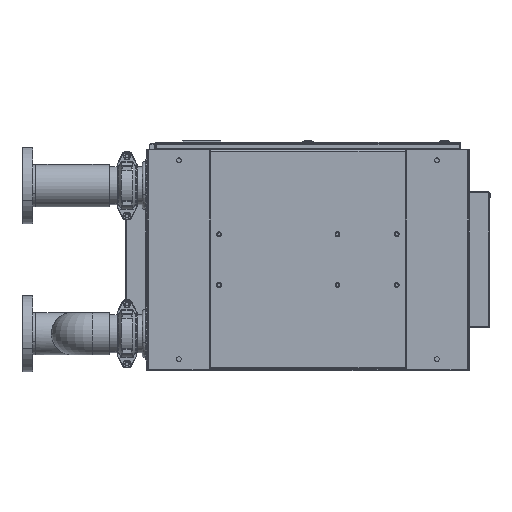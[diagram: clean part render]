
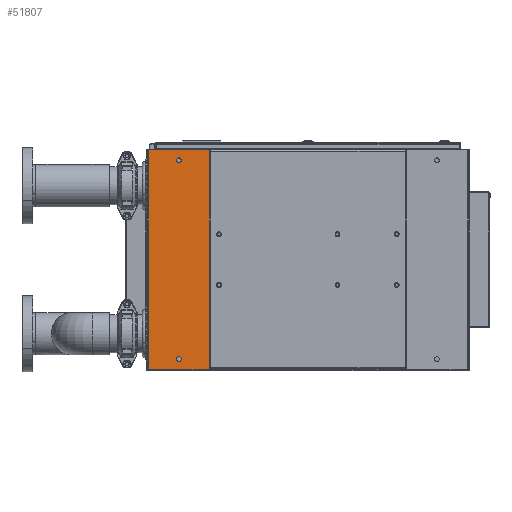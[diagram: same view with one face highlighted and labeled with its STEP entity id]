
A CAD part, front view. The second image highlights one B-rep face of the part: STEP entity #51807.
In plain terms, the highlighted planar face has unit normal (0, -1, 0).
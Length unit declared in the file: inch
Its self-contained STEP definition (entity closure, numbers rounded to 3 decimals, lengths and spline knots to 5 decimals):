
#680 = EDGE_CURVE ( 'NONE', #25294, #70871, #28948, .T. ) ;
#1406 = DIRECTION ( 'NONE',  ( 0., 0., 1. ) ) ;
#6369 = AXIS2_PLACEMENT_3D ( 'NONE', #56355, #14743, #63305 ) ;
#7890 = CIRCLE ( 'NONE', #30399, 0.27345 ) ;
#9119 = CARTESIAN_POINT ( 'NONE',  ( -5.97917, -24.80668, 12.40618 ) ) ;
#9890 = DIRECTION ( 'NONE',  ( -1., 0., 0. ) ) ;
#13003 = DIRECTION ( 'NONE',  ( 1., 0., 0. ) ) ;
#13059 = DIRECTION ( 'NONE',  ( 0., 1., 0. ) ) ;
#14743 = DIRECTION ( 'NONE',  ( 0., 1., 0. ) ) ;
#15201 = LINE ( 'NONE', #81739, #31545 ) ;
#17335 = EDGE_CURVE ( 'NONE', #77546, #32328, #15201, .T. ) ;
#19279 = DIRECTION ( 'NONE',  ( 0., 0., -1. ) ) ;
#19924 = VECTOR ( 'NONE', #13003, 39.37008 ) ;
#20611 = ORIENTED_EDGE ( 'NONE', *, *, #32280, .F. ) ;
#25294 = VERTEX_POINT ( 'NONE', #85284 ) ;
#25393 = ORIENTED_EDGE ( 'NONE', *, *, #82500, .T. ) ;
#27430 = VERTEX_POINT ( 'NONE', #79432 ) ;
#28948 = LINE ( 'NONE', #68748, #82011 ) ;
#29856 = FACE_OUTER_BOUND ( 'NONE', #45528, .T. ) ;
#30362 = CIRCLE ( 'NONE', #6369, 0.27345 ) ;
#30399 = AXIS2_PLACEMENT_3D ( 'NONE', #54714, #13059, #61629 ) ;
#31231 = EDGE_LOOP ( 'NONE', ( #77653, #41211 ) ) ;
#31545 = VECTOR ( 'NONE', #19279, 39.37008 ) ;
#32280 = EDGE_CURVE ( 'NONE', #25294, #32328, #64486, .T. ) ;
#32328 = VERTEX_POINT ( 'NONE', #38148 ) ;
#34219 = DIRECTION ( 'NONE',  ( 0., 0., 1. ) ) ;
#34380 = DIRECTION ( 'NONE',  ( 0., 1., 0. ) ) ;
#37094 = CARTESIAN_POINT ( 'NONE',  ( -9.56167, -24.80668, 11.15618 ) ) ;
#38148 = CARTESIAN_POINT ( 'NONE',  ( -13.14417, -24.80668, -13.59382 ) ) ;
#40635 = AXIS2_PLACEMENT_3D ( 'NONE', #37094, #85503, #44061 ) ;
#41197 = ORIENTED_EDGE ( 'NONE', *, *, #17335, .T. ) ;
#41211 = ORIENTED_EDGE ( 'NONE', *, *, #83684, .T. ) ;
#41269 = CARTESIAN_POINT ( 'NONE',  ( -13.14417, -24.80668, 12.40618 ) ) ;
#43051 = DIRECTION ( 'NONE',  ( 0., 1., 0. ) ) ;
#43345 = CARTESIAN_POINT ( 'NONE',  ( -9.56167, -24.80668, -12.07037 ) ) ;
#43466 = AXIS2_PLACEMENT_3D ( 'NONE', #84498, #43051, #1406 ) ;
#44061 = DIRECTION ( 'NONE',  ( 0., 0., 1. ) ) ;
#45528 = EDGE_LOOP ( 'NONE', ( #50150, #82816, #41197, #20611 ) ) ;
#46431 = AXIS2_PLACEMENT_3D ( 'NONE', #75859, #34380, #82811 ) ;
#46532 = ORIENTED_EDGE ( 'NONE', *, *, #74832, .T. ) ;
#47675 = CARTESIAN_POINT ( 'NONE',  ( -13.31167, -24.80668, 12.40618 ) ) ;
#48039 = PLANE ( 'NONE',  #46431 ) ;
#48194 = VERTEX_POINT ( 'NONE', #48871 ) ;
#48309 = FACE_BOUND ( 'NONE', #31231, .T. ) ;
#48871 = CARTESIAN_POINT ( 'NONE',  ( -9.56167, -24.80668, 11.42963 ) ) ;
#50150 = ORIENTED_EDGE ( 'NONE', *, *, #680, .T. ) ;
#51807 = ADVANCED_FACE ( 'NONE', ( #48309, #64555, #29856 ), #48039, .F. ) ;
#53803 = EDGE_CURVE ( 'NONE', #77546, #70871, #75282, .T. ) ;
#54714 = CARTESIAN_POINT ( 'NONE',  ( -9.56167, -24.80668, 11.15618 ) ) ;
#56355 = CARTESIAN_POINT ( 'NONE',  ( -9.56167, -24.80668, -12.34382 ) ) ;
#61629 = DIRECTION ( 'NONE',  ( 0., 0., 1. ) ) ;
#63305 = DIRECTION ( 'NONE',  ( 0., 0., 1. ) ) ;
#64486 = LINE ( 'NONE', #72098, #78510 ) ;
#64555 = FACE_BOUND ( 'NONE', #85411, .T. ) ;
#68244 = VERTEX_POINT ( 'NONE', #68505 ) ;
#68505 = CARTESIAN_POINT ( 'NONE',  ( -9.56167, -24.80668, 10.88273 ) ) ;
#68748 = CARTESIAN_POINT ( 'NONE',  ( -5.97917, -24.80668, -13.59382 ) ) ;
#69032 = EDGE_CURVE ( 'NONE', #48194, #68244, #7890, .T. ) ;
#69711 = VERTEX_POINT ( 'NONE', #43345 ) ;
#70871 = VERTEX_POINT ( 'NONE', #9119 ) ;
#72098 = CARTESIAN_POINT ( 'NONE',  ( -13.31167, -24.80668, -13.59382 ) ) ;
#74832 = EDGE_CURVE ( 'NONE', #27430, #69711, #30362, .T. ) ;
#75282 = LINE ( 'NONE', #47675, #19924 ) ;
#75859 = CARTESIAN_POINT ( 'NONE',  ( -9.56167, -24.80668, -0.59382 ) ) ;
#77546 = VERTEX_POINT ( 'NONE', #41269 ) ;
#77653 = ORIENTED_EDGE ( 'NONE', *, *, #69032, .T. ) ;
#78510 = VECTOR ( 'NONE', #9890, 39.37008 ) ;
#79432 = CARTESIAN_POINT ( 'NONE',  ( -9.56167, -24.80668, -12.61727 ) ) ;
#79710 = CIRCLE ( 'NONE', #43466, 0.27345 ) ;
#81739 = CARTESIAN_POINT ( 'NONE',  ( -13.14417, -24.80668, 12.40618 ) ) ;
#82011 = VECTOR ( 'NONE', #34219, 39.37008 ) ;
#82500 = EDGE_CURVE ( 'NONE', #69711, #27430, #79710, .T. ) ;
#82811 = DIRECTION ( 'NONE',  ( 0., 0., 1. ) ) ;
#82816 = ORIENTED_EDGE ( 'NONE', *, *, #53803, .F. ) ;
#83684 = EDGE_CURVE ( 'NONE', #68244, #48194, #86819, .T. ) ;
#84498 = CARTESIAN_POINT ( 'NONE',  ( -9.56167, -24.80668, -12.34382 ) ) ;
#85284 = CARTESIAN_POINT ( 'NONE',  ( -5.97917, -24.80668, -13.59382 ) ) ;
#85411 = EDGE_LOOP ( 'NONE', ( #25393, #46532 ) ) ;
#85503 = DIRECTION ( 'NONE',  ( 0., 1., 0. ) ) ;
#86819 = CIRCLE ( 'NONE', #40635, 0.27345 ) ;
